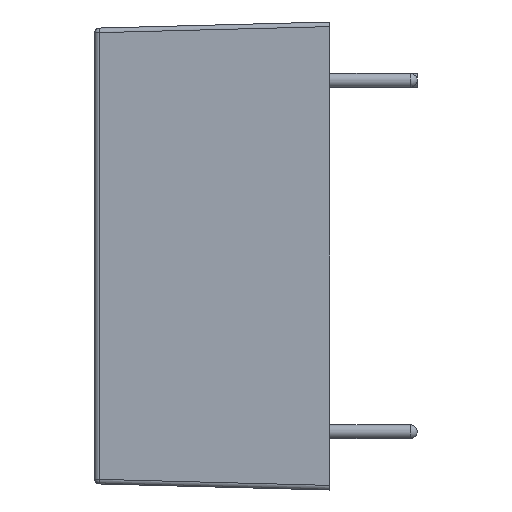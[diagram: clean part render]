
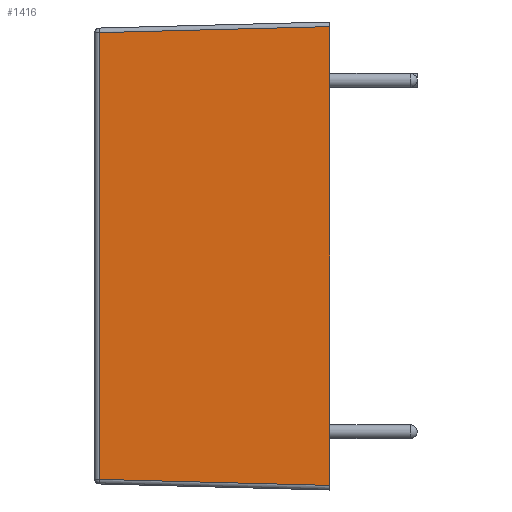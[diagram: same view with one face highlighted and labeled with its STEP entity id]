
A CAD part, left-side view. The second image highlights one B-rep face of the part: STEP entity #1416.
In plain terms, the highlighted planar face has unit normal (-1, 0.026, 0).
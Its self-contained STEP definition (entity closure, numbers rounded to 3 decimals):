
#104 = EDGE_CURVE ( 'NONE', #3522, #1158, #2852, .T. ) ;
#121 = EDGE_CURVE ( 'NONE', #1158, #2765, #3898, .T. ) ;
#135 = EDGE_CURVE ( 'NONE', #3905, #3522, #207, .T. ) ;
#157 = PLANE ( 'NONE',  #2320 ) ;
#194 = CARTESIAN_POINT ( 'NONE',  ( -15.9, 0., 9.95 ) ) ;
#207 = LINE ( 'NONE', #1917, #3979 ) ;
#253 = VECTOR ( 'NONE', #4166, 1000. ) ;
#337 = CARTESIAN_POINT ( 'NONE',  ( -15.638, 10.005, -9.883 ) ) ;
#415 = CARTESIAN_POINT ( 'NONE',  ( -15.9, 0., -10.15 ) ) ;
#517 = VECTOR ( 'NONE', #3195, 1000. ) ;
#582 = CARTESIAN_POINT ( 'NONE',  ( -15.638, 10.005, 9.688 ) ) ;
#914 = VECTOR ( 'NONE', #3233, 1000. ) ;
#922 = ORIENTED_EDGE ( 'NONE', *, *, #121, .T. ) ;
#1135 = CARTESIAN_POINT ( 'NONE',  ( -15.9, 0., -9.95 ) ) ;
#1158 = VERTEX_POINT ( 'NONE', #3719 ) ;
#1215 = ORIENTED_EDGE ( 'NONE', *, *, #104, .T. ) ;
#1232 = ORIENTED_EDGE ( 'NONE', *, *, #135, .T. ) ;
#1416 = ADVANCED_FACE ( 'NONE', ( #3835 ), #157, .T. ) ;
#1421 = LINE ( 'NONE', #3379, #517 ) ;
#1552 = DIRECTION ( 'NONE',  ( -1., 0.026, 0. ) ) ;
#1690 = CARTESIAN_POINT ( 'NONE',  ( -15.9, -0.005, -9.95 ) ) ;
#1766 = EDGE_LOOP ( 'NONE', ( #1215, #922, #4178, #1232 ) ) ;
#1913 = DIRECTION ( 'NONE',  ( -0.026, -1., 0. ) ) ;
#1917 = CARTESIAN_POINT ( 'NONE',  ( -15.886, 0.526, 9.936 ) ) ;
#2320 = AXIS2_PLACEMENT_3D ( 'NONE', #415, #1552, #1913 ) ;
#2765 = VERTEX_POINT ( 'NONE', #1135 ) ;
#2852 = LINE ( 'NONE', #337, #253 ) ;
#3195 = DIRECTION ( 'NONE',  ( 0., 0., 1. ) ) ;
#3233 = DIRECTION ( 'NONE',  ( -0.026, -0.999, -0.026 ) ) ;
#3379 = CARTESIAN_POINT ( 'NONE',  ( -15.9, 0., -10.15 ) ) ;
#3466 = DIRECTION ( 'NONE',  ( 0.026, 0.999, -0.026 ) ) ;
#3522 = VERTEX_POINT ( 'NONE', #582 ) ;
#3682 = EDGE_CURVE ( 'NONE', #2765, #3905, #1421, .T. ) ;
#3719 = CARTESIAN_POINT ( 'NONE',  ( -15.638, 10.005, -9.688 ) ) ;
#3835 = FACE_OUTER_BOUND ( 'NONE', #1766, .T. ) ;
#3898 = LINE ( 'NONE', #1690, #914 ) ;
#3905 = VERTEX_POINT ( 'NONE', #194 ) ;
#3979 = VECTOR ( 'NONE', #3466, 1000. ) ;
#4166 = DIRECTION ( 'NONE',  ( 0., 0., -1. ) ) ;
#4178 = ORIENTED_EDGE ( 'NONE', *, *, #3682, .T. ) ;
